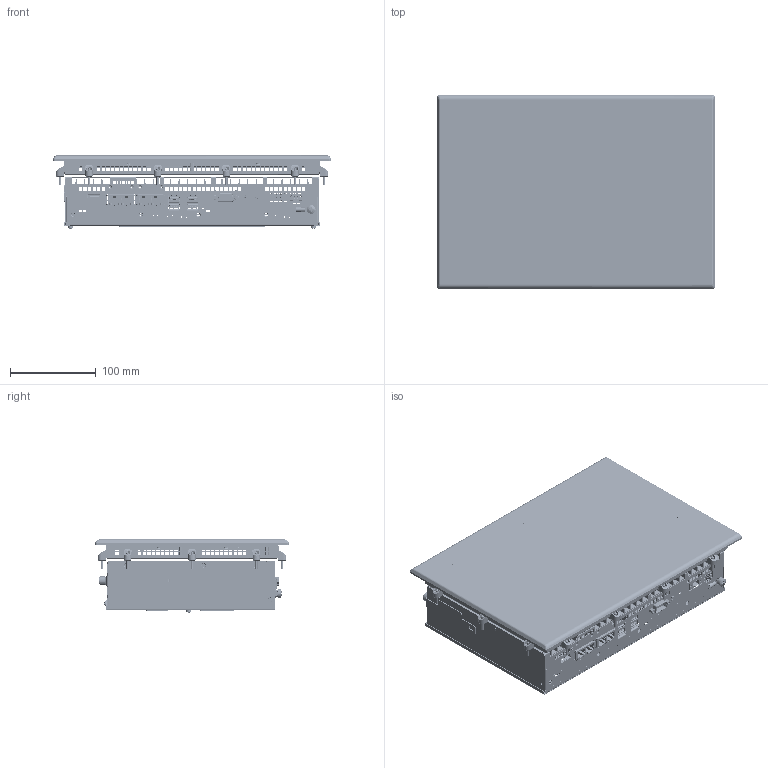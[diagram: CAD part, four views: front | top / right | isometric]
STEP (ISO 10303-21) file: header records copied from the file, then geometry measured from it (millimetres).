
FILE_DESCRIPTION (( 'STEP AP214' ), '1' );
FILE_NAME ('6300P-SW2-12FDABxxA.step', '2025-01-29T09:31:29', ( '' ), ( '' ), 'SwSTEP 2.0', 'SolidWorks 2023', '' );
FILE_SCHEMA (( 'AUTOMOTIVE_DESIGN' ));
Length unit declared in the file: millimetre
Products named in the file (51): 59303333; foot2594_480000; 62020045; 62920012; 56600637; 21900123; 58503018; 52536209; 20900005; 54900001; 21410056; 40141255; foot2593_480000; 69120013; 21502112; 50342008^GRUPPO FRONTALE 121 IP69K; 51703074_Default<A macchina>; 52882258; 50824006; 52882745; 62920002; 51524074; 62920009; 57342360; 23330039; 21614000; D02202201_S0 STEP; GRUPPO VITE TERRA M5; 69111027; 23330038; 65720029; 50342008_1^GRUPPO FRONTALE 121 IP69K; 21405048; 21509049; 59703107; 56606030_Default<A macchina>; 54900002; 21502089; 14300048; 52500005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
Assembly tree (98 placements, depth 4):
  6300P-SW2-12FDABxxA
    GRUPPO FRONTALE 121 IP69K
      56600637
        56606030_Default<A macchina>
        57342360
        48000067
      55455168
      21900123
      50342008^GRUPPO FRONTALE 121 IP69K  x2
      50342008_1^GRUPPO FRONTALE 121 IP69K  x2
      51524074  x8
      50824006
      40141255
      69111028  x8
      69120013  x4
    59303333
    D02202201_S0 STEP
      52500005
        52536209
      7359_081_STEP
        23330039
        23330038
        21410087  x2
        21410056  x2
        21405048
        foot2594_480000
        21509049
        foot2593_480000
      65720029  x5
      7397_402_STEP
        21502089
        21502112
      58503018
      59703107
      51703074_Default<A macchina>
      69111027  x8
      GRUPPO VITE TERRA M5
        65720078
        62920012
        62920009
        62920002
        20900005
      52882745
      52882258
      21614000  x2
      14300048  x3
      58703009_Default<A macchina>
    54900002  x14
      54900001
      61820001
      62020045
Bounding box: 323.8 x 225.8 x 85.39 mm (x, y, z)
Volume: 767036.8 mm3; surface area: 1287046 mm2
Topology: 304 solids, 307 shells, 38702 faces, 107740 edges, 69333 vertices
Faces by surface type: plane 27995, cylinder 7885, bspline 1600, cone 748, torus 302, sphere 172
Entity records: 950278 total; most frequent: CARTESIAN_POINT 206166, ORIENTED_EDGE 150964, DIRECTION 129851, EDGE_CURVE 75493, LINE 58339, VECTOR 58339, VERTEX_POINT 48729, AXIS2_PLACEMENT_3D 35756
